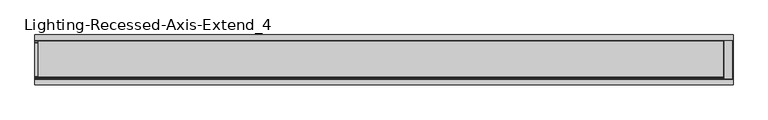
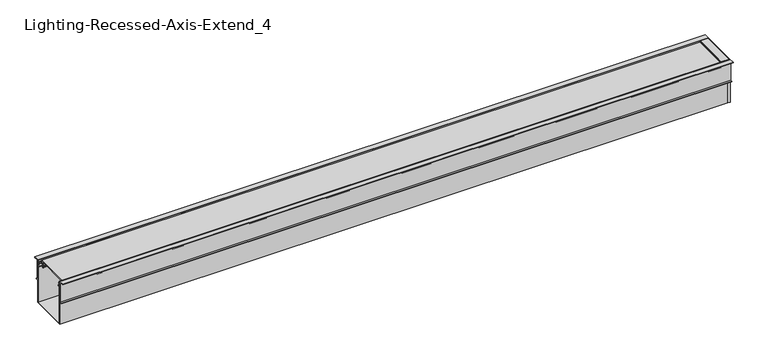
"""IFC4 building model written with IfcOpenShell, lengths in millimetres: light fixture geometry, Lighting-Recessed-Axis-Extend_4 : EX4R-900-80-35-SO-4."""

from ifc_helpers import new_model, si_unit, point, frame, frame_2d, origin, place, context, project, spatial, polyline, circle_curve, trimmed, segment, composite_curve, outline, extrude, source, transform, mapped, element, save


def lighting_recessed_axis_extend_4_3b23e5d8(model_context):
    return source(origin(), model_context, "Body", "SweptSolid", [
        extrude(outline(polyline([(55.07101, -57.023), (59.735562, -57.023), (59.735562, -58.674), (52.78501, -58.674), (52.78501, 1.651), (66.37401, 1.651), (66.37401, 0.0), (55.07101, 0.0), (55.07101, -57.023)])), frame((-923.5567, 0.0, 0.0), z_axis=(1.0, 0.0, 0.0), x_axis=(0.0, 1.0, 0.0)), (0.0, 0.0, 1.0), 1859.2927),
        extrude(outline(polyline([(-55.07101, -57.023), (-55.07101, 0.0), (-66.37401, 0.0), (-66.37401, 1.651), (-52.78501, 1.651), (-52.78501, -58.674), (-59.735562, -58.674), (-59.735562, -57.023), (-55.07101, -57.023)])), frame((-923.5567, 0.0, 0.0), z_axis=(1.0, 0.0, 0.0), x_axis=(0.0, 1.0, 0.0)), (0.0, 0.0, 1.0), 1859.2927),
        extrude(outline(polyline([(0.5492861, 935.6598), (1.651, 934.7352563), (1.651, 912.3781437), (0.5492861, 911.4536), (-0.92075, 911.4536), (-0.92075, 912.24735), (-0.127, 912.24735), (-0.127, 918.718), (-2.9332019, 918.718), (-2.9332019, 928.3954), (-0.127, 928.3954), (-0.127, 934.86605), (-0.92075, 934.86605), (-0.92075, 935.6598), (0.5492861, 935.6598)])), frame((0.0, -50.75301, 0.0), z_axis=(0.0, 1.0, 0.0), x_axis=(0.0, 0.0, 1.0)), (0.0, 0.0, 1.0), 101.50602),
        extrude(outline(polyline([(0.5492861, 911.0726), (-0.92075, 911.0726), (-0.92075, 911.86635), (-0.127, 911.86635), (-0.127, 918.718), (-2.9332019, 918.718), (-2.9332019, 929.386), (1.651, 929.386), (1.651, 911.9971437), (0.5492861, 911.0726)])), frame((0.0, -50.75301, 0.0), z_axis=(0.0, 1.0, 0.0), x_axis=(0.0, 0.0, 1.0)), (0.0, 0.0, 1.0), 101.50602),
        extrude(outline(polyline([(929.386, -52.78501), (929.386, 52.78501), (935.736, 52.78501), (935.736, -52.78501), (929.386, -52.78501)])), frame((0.0, 0.0, -123.1265), z_axis=(0.0, 0.0, 1.0), x_axis=(1.0, 0.0, 0.0)), (0.0, 0.0, 1.0), 124.7775),
        extrude(outline(composite_curve([segment(polyline([(-44.9537362, -3.2385009), (-45.2924281, -9.7011263)]), True, "CONTINUOUS"), segment(trimmed(circle_curve(frame_2d((-48.03521, -12.7)), 4.064), [point((-45.2924281, -9.7011263))], [point((-46.1628914, -16.3070097))], False, "CARTESIAN"), True, "CONTINUOUS"), segment(trimmed(circle_curve(frame_2d((-42.930354, -15.5181543)), 3.3274001), [point((-46.1628914, -16.3070097))], [point((-45.3476056, -17.8047425))], True, "CARTESIAN"), True, "CONTINUOUS"), segment(trimmed(circle_curve(frame_2d((-37.9113277, -10.7704292)), 10.2362001), [point((-45.3476056, -17.8047425))], [point((-43.9929166, -19.0041445))], True, "CARTESIAN"), True, "CONTINUOUS"), segment(trimmed(circle_curve(frame_2d((-44.4833673, -19.6681538)), 0.8255), [point((-43.9929166, -19.0041445))], [point((-44.973818, -20.3321631))], False, "CARTESIAN"), True, "CONTINUOUS"), segment(trimmed(circle_curve(frame_2d((-37.9113269, -10.7704283)), 11.8872013), [point((-44.973818, -20.3321631))], [point((-46.5470052, -18.9393092))], False, "CARTESIAN"), True, "CONTINUOUS"), segment(trimmed(circle_curve(frame_2d((-42.930354, -15.5181543)), 4.9784001), [point((-46.5470052, -18.9393092))], [point((-47.8918907, -15.10874))], False, "CARTESIAN"), True, "CONTINUOUS"), segment(trimmed(circle_curve(frame_2d((-48.03521, -12.7)), 2.413), [point((-47.8918907, -15.10874))], [point((-46.2564041, -11.0695342))], True, "CARTESIAN"), True, "CONTINUOUS"), segment(trimmed(circle_curve(frame_2d((-44.3839769, -9.3532544)), 2.54), [point((-46.2564041, -11.0695342))], [point((-46.9204959, -9.2203211))], False, "CARTESIAN"), True, "CONTINUOUS"), segment(polyline([(-46.9204959, -9.2203211), (-46.607002, -3.2385009), (-49.61001, -3.2385009), (-49.61001, -1.3335), (49.61001, -1.3335), (49.61001, -3.2385009), (46.607002, -3.2385009), (46.9204959, -9.2203211)]), True, "CONTINUOUS"), segment(trimmed(circle_curve(frame_2d((44.3839769, -9.3532544)), 2.54), [point((46.9204959, -9.2203211))], [point((46.2564041, -11.0695342))], False, "CARTESIAN"), True, "CONTINUOUS"), segment(trimmed(circle_curve(frame_2d((48.03521, -12.7)), 2.413), [point((46.2564041, -11.0695342))], [point((47.8918907, -15.10874))], True, "CARTESIAN"), True, "CONTINUOUS"), segment(trimmed(circle_curve(frame_2d((42.930354, -15.5181543)), 4.9784001), [point((47.8918907, -15.10874))], [point((46.5470052, -18.9393092))], False, "CARTESIAN"), True, "CONTINUOUS"), segment(trimmed(circle_curve(frame_2d((37.9113269, -10.7704283)), 11.8872013), [point((46.5470052, -18.9393092))], [point((44.973818, -20.3321631))], False, "CARTESIAN"), True, "CONTINUOUS"), segment(trimmed(circle_curve(frame_2d((44.4833673, -19.6681538)), 0.8255), [point((44.973818, -20.3321631))], [point((43.9929166, -19.0041445))], False, "CARTESIAN"), True, "CONTINUOUS"), segment(trimmed(circle_curve(frame_2d((37.9113277, -10.7704292)), 10.2362001), [point((43.9929166, -19.0041445))], [point((45.3476056, -17.8047425))], True, "CARTESIAN"), True, "CONTINUOUS"), segment(trimmed(circle_curve(frame_2d((42.930354, -15.5181543)), 3.3274001), [point((45.3476056, -17.8047425))], [point((46.1628914, -16.3070097))], True, "CARTESIAN"), True, "CONTINUOUS"), segment(trimmed(circle_curve(frame_2d((48.03521, -12.7)), 4.064), [point((46.1628914, -16.3070097))], [point((45.2924281, -9.7011263))], False, "CARTESIAN"), True, "CONTINUOUS"), segment(polyline([(45.2924281, -9.7011263), (44.9537362, -3.2385009), (-44.9537362, -3.2385009)]), True, "CONTINUOUS")], self_intersect=False)), frame((-914.4, 0.0, 0.0), z_axis=(1.0, 0.0, 0.0), x_axis=(0.0, 1.0, 0.0)), (0.0, 0.0, 1.0), 1828.8),
        extrude(outline(composite_curve([segment(polyline([(-50.75301, -13.2588), (-50.75301, -121.0945), (50.75301, -121.0945), (50.75301, -13.2588), (48.9135897, -13.2588)]), True, "CONTINUOUS"), segment(trimmed(circle_curve(frame_2d((47.4072397, -13.2588)), 1.5063501), [point((48.9135897, -13.2588))], [point((46.6540646, -14.5633374))], False, "CARTESIAN"), True, "CONTINUOUS"), segment(trimmed(circle_curve(frame_2d((47.8452221, -12.5001921)), 2.382315), [point((46.6540646, -14.5633374))], [point((45.4706616, -12.3081318))], False, "CARTESIAN"), True, "CONTINUOUS"), segment(polyline([(45.4706616, -12.3081318), (48.84801, -9.4742), (48.84801, -11.2268), (50.75301, -11.2268), (50.75301, -4.699), (48.84801, -4.699), (48.84801, -6.223), (47.19701, -6.1364748), (47.19701, -3.429), (50.75301, -3.429), (50.75301, 1.651), (52.78501, 1.651), (52.78501, -123.1265), (-52.78501, -123.1265), (-52.78501, 1.651), (-50.75301, 1.651), (-50.75301, -3.429), (-47.19701, -3.429), (-47.19701, -6.1364748), (-48.84801, -6.223), (-48.84801, -4.699), (-50.75301, -4.699), (-50.75301, -11.2268), (-48.84801, -11.2268), (-48.84801, -9.4742), (-45.4706616, -12.3081318)]), True, "CONTINUOUS"), segment(trimmed(circle_curve(frame_2d((-47.8452221, -12.5001921)), 2.382315), [point((-45.4706616, -12.3081318))], [point((-46.6540646, -14.5633374))], False, "CARTESIAN"), True, "CONTINUOUS"), segment(trimmed(circle_curve(frame_2d((-47.4072397, -13.2588)), 1.5063501), [point((-46.6540646, -14.5633374))], [point((-48.9135897, -13.2588))], False, "CARTESIAN"), True, "CONTINUOUS"), segment(polyline([(-48.9135897, -13.2588), (-50.75301, -13.2588)]), True, "CONTINUOUS")], self_intersect=False)), frame((-923.5567, 0.0, 0.0), z_axis=(1.0, 0.0, 0.0), x_axis=(0.0, 1.0, 0.0)), (0.0, 0.0, 1.0), 1852.9427),
    ])


if __name__ == "__main__":
    model = new_model("IFC4")
    model_context = context("Model", 3, world=origin())
    ifc_project = project(units=[si_unit("LENGTHUNIT", "METRE", prefix="MILLI")], contexts=[model_context])
    site = spatial("IfcSite", under=ifc_project)
    building = spatial("IfcBuilding", under=site)
    placement = place(None, origin())
    lighting_recessed_axis_extend_4_shape = lighting_recessed_axis_extend_4_3b23e5d8(model_context)
    element("IfcLightFixture", 1, ObjectType="Lighting-Recessed-Axis-Extend_4 : EX4R-900-80-35-SO-4", at=placement, inside=building, context=model_context, shape_type="MappedRepresentation", body=[
        mapped(lighting_recessed_axis_extend_4_shape, transform((0.0, 0.0, 0.0), x_axis=(1.0, 0.0, 0.0), y_axis=(0.0, 1.0, 0.0), z_axis=(0.0, 0.0, 1.0))),
    ])
    save(model, "model.ifc")
